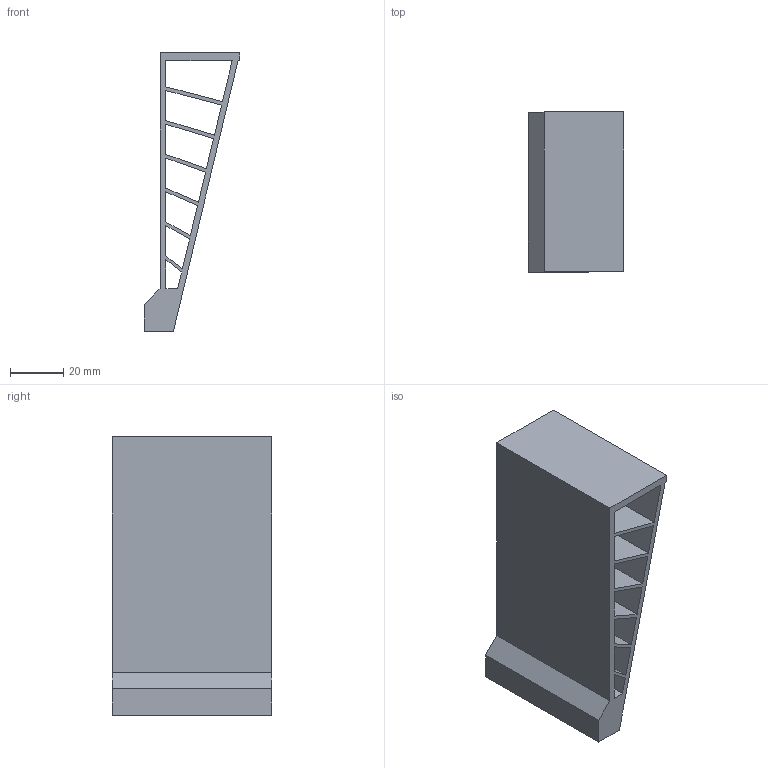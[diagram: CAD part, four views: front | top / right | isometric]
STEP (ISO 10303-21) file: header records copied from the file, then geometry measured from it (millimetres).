
FILE_DESCRIPTION(('Open CASCADE Model'),'2;1');
FILE_NAME('Open CASCADE Shape Model','2026-10-16T04:49:54',('Author'),( 'Open CASCADE'),'Open CASCADE STEP processor 7.9','Open CASCADE 7.9' ,'Unknown');
FILE_SCHEMA(('AUTOMOTIVE_DESIGN { 1 0 10303 214 1 1 1 1 }'));
Length unit declared in the file: millimetre
Products named in the file (1): Open CASCADE STEP translator 7.9 8
Bounding box: 36 x 60 x 104.5 mm (x, y, z)
Volume: 46114.5 mm3; surface area: 38619.5 mm2
Topology: 1 solids, 1 shells, 38 faces, 108 edges, 72 vertices
Faces by surface type: plane 38
Entity records: 2654 total; most frequent: CARTESIAN_POINT 435, DIRECTION 402, LINE 324, VECTOR 324, ORIENTED_EDGE 216, PCURVE 216, DEFINITIONAL_REPRESENTATION 216, EDGE_CURVE 108
